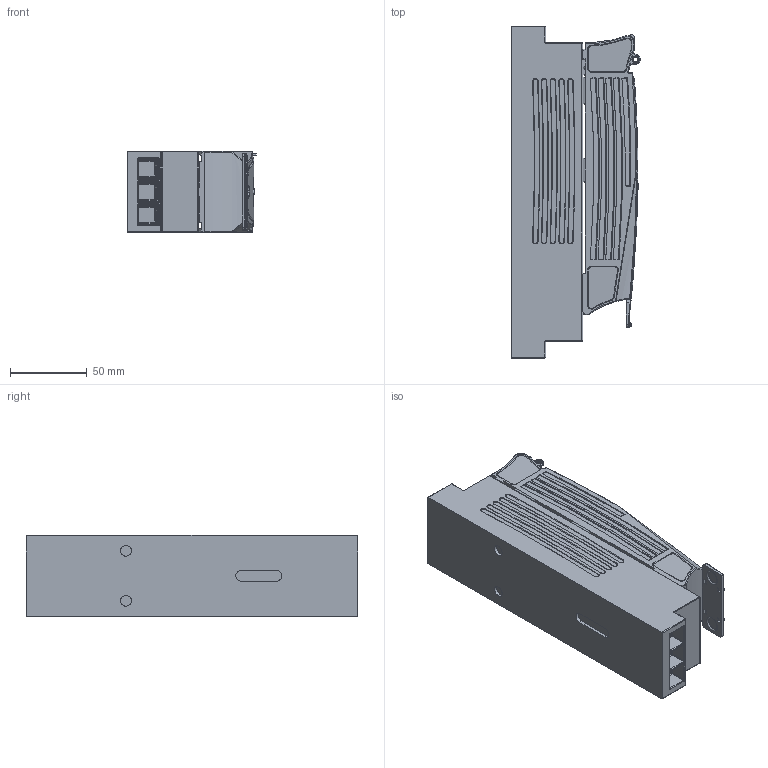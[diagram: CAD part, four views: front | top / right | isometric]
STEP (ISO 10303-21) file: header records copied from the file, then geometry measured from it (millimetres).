
FILE_DESCRIPTION(/* description */ (''),/* implementation_level */ '2;1');
FILE_NAME(/* name */ 'RBP 000 pro - 63-823267-001.stp',/* time_stamp */ '2019-04-10T12:47:01+02:00',/* author */ (''),/* organization */ (''),/* preprocessor_version */ 'ST-DEVELOPER v16',/* originating_system */ 'SIEMENS PLM Software NX 10.0',/* authorisation */ '');
FILE_SCHEMA (('AUTOMOTIVE_DESIGN { 1 0 10303 214 3 1 1 1 }'));
Products named in the file (1): 710_296C318Fqiep
Bounding box: 83.53 x 216 x 53.3 mm (x, y, z)
Volume: 728835.6 mm3; surface area: 113529 mm2
Topology: 1 solids, 4 shells, 2277 faces, 5894 edges, 3575 vertices
Faces by surface type: plane 818, cylinder 540, bspline 511, torus 168, sphere 101, cone 76, extrusion 45, revolution 18
Full cylindrical faces by diameter (mm): 5.795 x6, 7.055 x2, 12 x6
Entity records: 85020 total; most frequent: CARTESIAN_POINT 31362, ORIENTED_EDGE 11390, DIRECTION 9655, EDGE_CURVE 5695, VERTEX_POINT 3540, AXIS2_PLACEMENT_3D 3523, VECTOR 2591, LINE 2546
